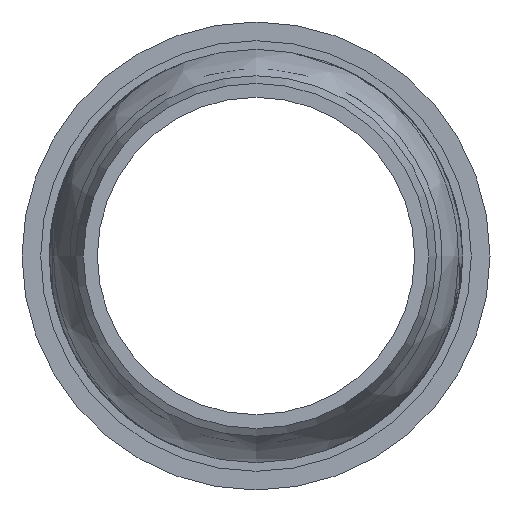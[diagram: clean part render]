
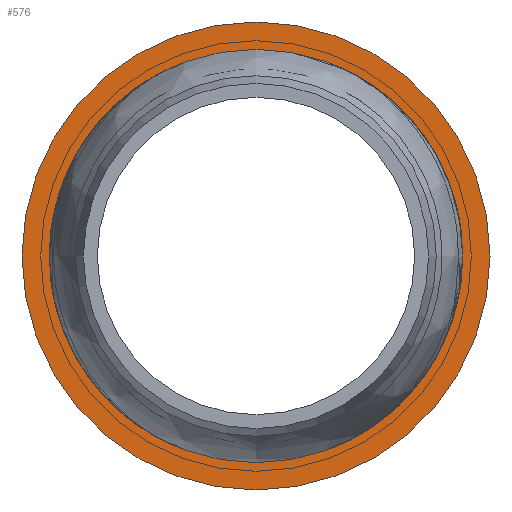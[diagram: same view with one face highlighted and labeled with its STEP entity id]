
A CAD part, left-side view. The second image highlights one B-rep face of the part: STEP entity #576.
In plain terms, the highlighted planar face has unit normal (-1, 0, 0).
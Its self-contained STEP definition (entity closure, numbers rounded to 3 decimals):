
#82=PLANE('',#641);
#113=FACE_BOUND('',#210,.T.);
#149=FACE_OUTER_BOUND('',#209,.T.);
#209=EDGE_LOOP('',(#490));
#210=EDGE_LOOP('',(#491));
#244=CIRCLE('',#640,28.15);
#245=CIRCLE('',#642,32.55);
#301=VERTEX_POINT('',#2075);
#302=VERTEX_POINT('',#2078);
#366=EDGE_CURVE('',#301,#301,#244,.T.);
#367=EDGE_CURVE('',#302,#302,#245,.T.);
#490=ORIENTED_EDGE('',*,*,#367,.F.);
#491=ORIENTED_EDGE('',*,*,#366,.T.);
#576=ADVANCED_FACE('',(#149,#113),#82,.T.);
#640=AXIS2_PLACEMENT_3D('',#2076,#760,#761);
#641=AXIS2_PLACEMENT_3D('',#2077,#762,#763);
#642=AXIS2_PLACEMENT_3D('',#2079,#764,#765);
#760=DIRECTION('center_axis',(1.,0.,0.));
#761=DIRECTION('ref_axis',(0.,0.,
1.));
#762=DIRECTION('center_axis',(-1.,0.,0.));
#763=DIRECTION('ref_axis',(0.,0.,-1.));
#764=DIRECTION('center_axis',(1.,0.,0.));
#765=DIRECTION('ref_axis',(0.,0.,
1.));
#2075=CARTESIAN_POINT('',(1032.85,-28.15,0.));
#2076=CARTESIAN_POINT('Origin',(1032.85,0.,
0.));
#2077=CARTESIAN_POINT('Origin',(1032.85,-32.55,0.));
#2078=CARTESIAN_POINT('',(1032.85,-32.55,0.));
#2079=CARTESIAN_POINT('Origin',(1032.85,0.,
0.));
